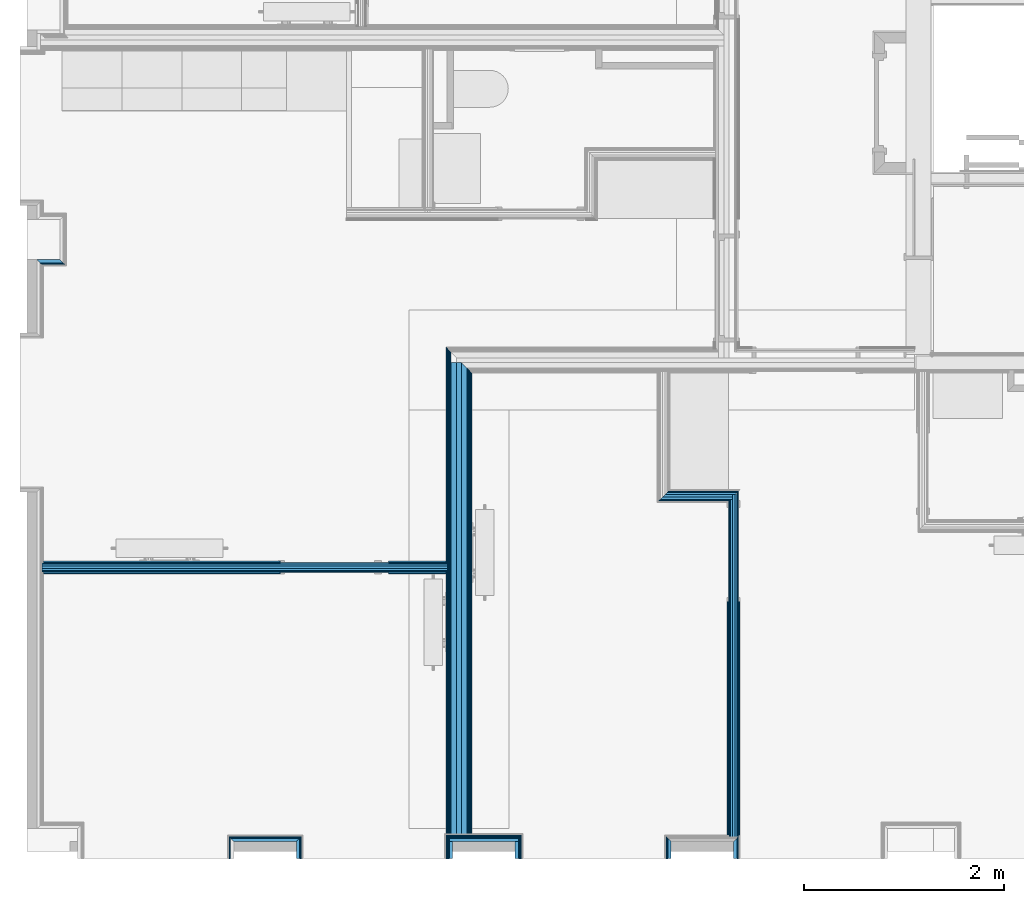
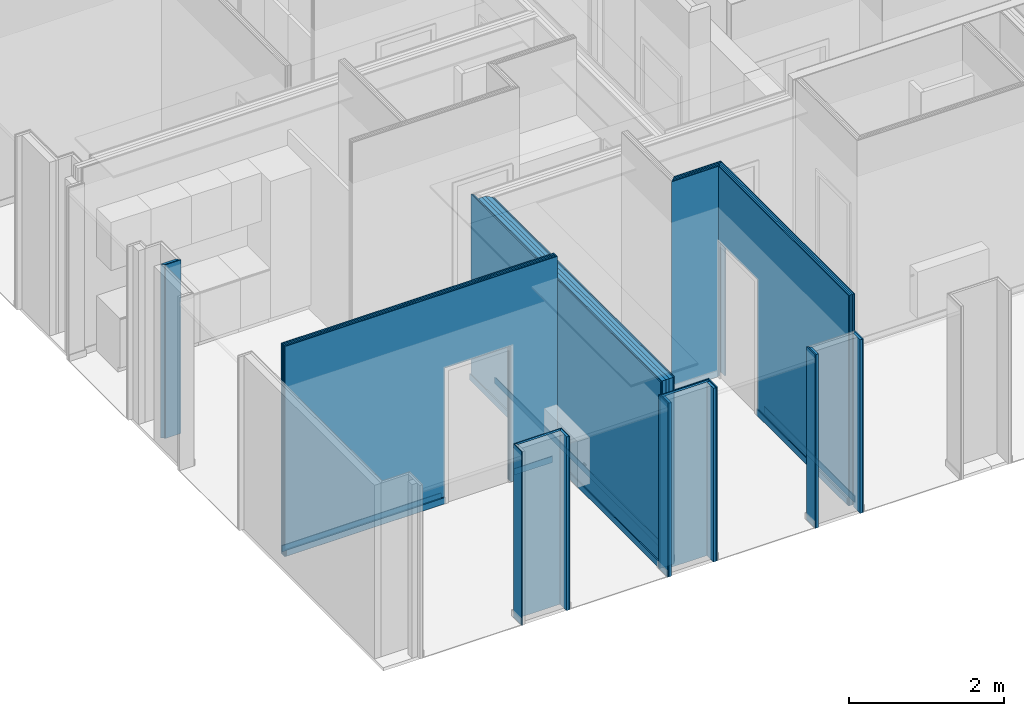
# One storey, part 12 of 65: 51 building element parts, 3 openings, 13 elements without a shape of their own.
"""IFC2X3 building model written with IfcOpenShell, lengths in metres."""

from ifc_helpers import new_model, entity, si_unit, converted_unit, derived_unit, money_unit, direction, frame, frame_2d, origin_with_axes, place, context, subcontext, project, spatial, polyline, rectangle, outline, extrude, material, type_object, element, aggregate, save


model = new_model("IFC2X3")

# Units and contexts
model_context = context("Model", 3, precision=1e-05, world=origin_with_axes(), true_north=direction((0.0, 1.0)))
body_context = subcontext(model_context, "Body", "Model", "MODEL_VIEW", scale=1.0)
ifc_project = project(units=[si_unit("LENGTHUNIT", "METRE"), si_unit("AREAUNIT", "SQUARE_METRE"), si_unit("VOLUMEUNIT", "CUBIC_METRE"), si_unit("ABSORBEDDOSEUNIT", "GRAY"), si_unit("AMOUNTOFSUBSTANCEUNIT", "MOLE"), si_unit("DOSEEQUIVALENTUNIT", "SIEVERT"), si_unit("ELECTRICCAPACITANCEUNIT", "FARAD"), si_unit("ELECTRICCHARGEUNIT", "COULOMB"), si_unit("ELECTRICCONDUCTANCEUNIT", "SIEMENS"), si_unit("ELECTRICCURRENTUNIT", "AMPERE"), si_unit("ELECTRICRESISTANCEUNIT", "OHM"), si_unit("ELECTRICVOLTAGEUNIT", "VOLT"), si_unit("ENERGYUNIT", "JOULE"), si_unit("FORCEUNIT", "NEWTON"), si_unit("FREQUENCYUNIT", "HERTZ"), si_unit("ILLUMINANCEUNIT", "LUX"), si_unit("INDUCTANCEUNIT", "HENRY"), si_unit("LUMINOUSFLUXUNIT", "LUMEN"), si_unit("LUMINOUSINTENSITYUNIT", "CANDELA"), si_unit("MAGNETICFLUXDENSITYUNIT", "TESLA"), si_unit("MAGNETICFLUXUNIT", "WEBER"), si_unit("MASSUNIT", "GRAM"), converted_unit("PLANEANGLEUNIT", "degree", entity("IfcReal", 0.0174532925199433), si_unit("PLANEANGLEUNIT", "RADIAN"), dimensions=[0, 0, 0, 0, 0, 0, 0]), si_unit("POWERUNIT", "WATT"), si_unit("PRESSUREUNIT", "PASCAL"), si_unit("RADIOACTIVITYUNIT", "BECQUEREL"), si_unit("SOLIDANGLEUNIT", "STERADIAN"), si_unit("THERMODYNAMICTEMPERATUREUNIT", "KELVIN"), si_unit("TIMEUNIT", "SECOND"), derived_unit("ACCELERATIONUNIT", [(si_unit("LENGTHUNIT", "METRE"), 1), (si_unit("TIMEUNIT", "SECOND"), -2)]), derived_unit("ANGULARVELOCITYUNIT", [(converted_unit("PLANEANGLEUNIT", "degree", entity("IfcReal", 0.0174532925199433), si_unit("PLANEANGLEUNIT", "RADIAN"), dimensions=[0, 0, 0, 0, 0, 0, 0]), 1), (si_unit("TIMEUNIT", "SECOND"), -1)]), derived_unit("CURVATUREUNIT", [(converted_unit("PLANEANGLEUNIT", "degree", entity("IfcReal", 0.0174532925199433), si_unit("PLANEANGLEUNIT", "RADIAN"), dimensions=[0, 0, 0, 0, 0, 0, 0]), 1), (si_unit("LENGTHUNIT", "METRE"), -1)]), derived_unit("DYNAMICVISCOSITYUNIT", [(si_unit("PRESSUREUNIT", "PASCAL"), 1), (si_unit("TIMEUNIT", "SECOND"), 1)]), derived_unit("HEATFLUXDENSITYUNIT", [(si_unit("POWERUNIT", "WATT"), 1), (si_unit("LENGTHUNIT", "METRE"), -2)]), derived_unit("HEATINGVALUEUNIT", [(si_unit("ENERGYUNIT", "JOULE"), 1), (si_unit("MASSUNIT", "GRAM"), -1)]), derived_unit("INTEGERCOUNTRATEUNIT", [(si_unit("TIMEUNIT", "SECOND"), -1)]), derived_unit("IONCONCENTRATIONUNIT", [(si_unit("MASSUNIT", "GRAM"), 1), (si_unit("VOLUMEUNIT", "CUBIC_METRE"), -1)]), derived_unit("ISOTHERMALMOISTURECAPACITYUNIT", [(si_unit("VOLUMEUNIT", "CUBIC_METRE"), 1), (si_unit("MASSUNIT", "GRAM"), -1)]), derived_unit("KINEMATICVISCOSITYUNIT", [(si_unit("AREAUNIT", "SQUARE_METRE"), 1), (si_unit("TIMEUNIT", "SECOND"), -1)]), derived_unit("LINEARFORCEUNIT", [(si_unit("FORCEUNIT", "NEWTON"), 1), (si_unit("LENGTHUNIT", "METRE"), -1)]), derived_unit("LINEARMOMENTUNIT", [(si_unit("FORCEUNIT", "NEWTON"), 1), (si_unit("LENGTHUNIT", "METRE"), -1)]), derived_unit("LINEARSTIFFNESSUNIT", [(si_unit("FORCEUNIT", "NEWTON"), 1), (si_unit("LENGTHUNIT", "METRE"), -1)]), derived_unit("LINEARVELOCITYUNIT", [(si_unit("LENGTHUNIT", "METRE"), 1), (si_unit("TIMEUNIT", "SECOND"), -1)]), derived_unit("LUMINOUSINTENSITYDISTRIBUTIONUNIT", [(si_unit("LUMINOUSINTENSITYUNIT", "CANDELA"), 1), (si_unit("LUMINOUSFLUXUNIT", "LUMEN"), -1)]), derived_unit("MASSDENSITYUNIT", [(si_unit("MASSUNIT", "GRAM"), 1), (si_unit("VOLUMEUNIT", "CUBIC_METRE"), -1)]), derived_unit("MASSFLOWRATEUNIT", [(si_unit("MASSUNIT", "GRAM"), 1), (si_unit("TIMEUNIT", "SECOND"), -1)]), derived_unit("MASSPERLENGTHUNIT", [(si_unit("MASSUNIT", "GRAM"), 1), (si_unit("LENGTHUNIT", "METRE"), -1)]), derived_unit("MODULUSOFELASTICITYUNIT", [(si_unit("FORCEUNIT", "NEWTON"), 1), (si_unit("AREAUNIT", "SQUARE_METRE"), -1)]), derived_unit("MODULUSOFLINEARSUBGRADEREACTIONUNIT", [(si_unit("FORCEUNIT", "NEWTON"), 1), (si_unit("LENGTHUNIT", "METRE"), -2)]), derived_unit("MODULUSOFROTATIONALSUBGRADEREACTIONUNIT", [(si_unit("FORCEUNIT", "NEWTON"), 1), (si_unit("LENGTHUNIT", "METRE"), 1)]), derived_unit("MODULUSOFSUBGRADEREACTIONUNIT", [(si_unit("FORCEUNIT", "NEWTON"), 1), (si_unit("VOLUMEUNIT", "CUBIC_METRE"), -1)]), derived_unit("MOISTUREDIFFUSIVITYUNIT", [(si_unit("VOLUMEUNIT", "CUBIC_METRE"), 1), (si_unit("TIMEUNIT", "SECOND"), -1)]), derived_unit("MOLECULARWEIGHTUNIT", [(si_unit("MASSUNIT", "GRAM"), 1), (si_unit("AMOUNTOFSUBSTANCEUNIT", "MOLE"), -1)]), derived_unit("PLANARFORCEUNIT", [(si_unit("FORCEUNIT", "NEWTON"), 1), (si_unit("LENGTHUNIT", "METRE"), -2)]), derived_unit("ROTATIONALFREQUENCYUNIT", [(si_unit("TIMEUNIT", "SECOND"), -1)]), derived_unit("ROTATIONALMASSUNIT", [(si_unit("MASSUNIT", "GRAM"), 1), (si_unit("LENGTHUNIT", "METRE"), 2)]), derived_unit("ROTATIONALSTIFFNESSUNIT", [(si_unit("FORCEUNIT", "NEWTON"), 1), (si_unit("LENGTHUNIT", "METRE"), 1), (converted_unit("PLANEANGLEUNIT", "degree", entity("IfcReal", 0.0174532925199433), si_unit("PLANEANGLEUNIT", "RADIAN"), dimensions=[0, 0, 0, 0, 0, 0, 0]), -1)]), derived_unit("SECTIONAREAINTEGRALUNIT", [(si_unit("LENGTHUNIT", "METRE"), 5)]), derived_unit("SECTIONMODULUSUNIT", [(si_unit("LENGTHUNIT", "METRE"), 3)]), derived_unit("SHEARMODULUSUNIT", [(si_unit("FORCEUNIT", "NEWTON"), 1), (si_unit("AREAUNIT", "SQUARE_METRE"), -1)]), derived_unit("SOUNDPOWERUNIT", [(si_unit("ENERGYUNIT", "JOULE"), 1), (si_unit("TIMEUNIT", "SECOND"), -1)]), derived_unit("SPECIFICHEATCAPACITYUNIT", [(si_unit("FORCEUNIT", "NEWTON"), 1), (si_unit("MASSUNIT", "GRAM"), -1), (si_unit("THERMODYNAMICTEMPERATUREUNIT", "KELVIN"), -1)]), derived_unit("TEMPERATUREGRADIENTUNIT", [(si_unit("THERMODYNAMICTEMPERATUREUNIT", "KELVIN"), 1), (si_unit("LENGTHUNIT", "METRE"), -1)]), derived_unit("THERMALADMITTANCEUNIT", [(si_unit("POWERUNIT", "WATT"), 1), (si_unit("AREAUNIT", "SQUARE_METRE"), -1), (si_unit("THERMODYNAMICTEMPERATUREUNIT", "KELVIN"), -1)]), derived_unit("THERMALCONDUCTANCEUNIT", [(si_unit("POWERUNIT", "WATT"), 1), (si_unit("LENGTHUNIT", "METRE"), -1), (si_unit("THERMODYNAMICTEMPERATUREUNIT", "KELVIN"), -1)]), derived_unit("THERMALEXPANSIONCOEFFICIENTUNIT", [(si_unit("THERMODYNAMICTEMPERATUREUNIT", "KELVIN"), -1)]), derived_unit("THERMALRESISTANCEUNIT", [(si_unit("AREAUNIT", "SQUARE_METRE"), 1), (si_unit("POWERUNIT", "WATT"), -1)]), derived_unit("THERMALTRANSMITTANCEUNIT", [(si_unit("POWERUNIT", "WATT"), 1), (si_unit("AREAUNIT", "SQUARE_METRE"), -1), (si_unit("THERMODYNAMICTEMPERATUREUNIT", "KELVIN"), -1)]), derived_unit("TORQUEUNIT", [(si_unit("FORCEUNIT", "NEWTON"), 1), (si_unit("LENGTHUNIT", "METRE"), 1)]), derived_unit("VAPORPERMEABILITYUNIT", [(si_unit("MASSUNIT", "GRAM"), 1), (si_unit("TIMEUNIT", "SECOND"), -1)]), derived_unit("VOLUMETRICFLOWRATEUNIT", [(si_unit("VOLUMEUNIT", "CUBIC_METRE"), 1), (si_unit("TIMEUNIT", "SECOND"), -1)]), derived_unit("WARPINGCONSTANTUNIT", [(si_unit("LENGTHUNIT", "METRE"), 6)]), derived_unit("WARPINGMOMENTUNIT", [(si_unit("FORCEUNIT", "NEWTON"), 1), (si_unit("LENGTHUNIT", "METRE"), 2)]), money_unit("GBP")], contexts=[model_context])

# Site, building, storey
site_placement = place(None, origin_with_axes())
site = spatial("IfcSite", under=ifc_project, at=site_placement, Name="Site", CompositionType="ELEMENT")
building_placement = place(site_placement, origin_with_axes())
building = spatial("IfcBuilding", under=site, at=building_placement, Name="Building01", CompositionType="ELEMENT")
storey_placement = place(building_placement, frame((0.0, 0.0, 8.64), z_axis=(0.0, 0.0, 1.0), x_axis=(1.0, 0.0, 0.0)))
storey = spatial("IfcBuildingStorey", under=building, at=storey_placement, Name="2F", CompositionType="ELEMENT", Elevation=8.64)

# Wall, building element parts
wall_type_1 = type_object("IfcWallType", Name="SHE_A-Walls_Type06d_ExternalWallInsulation_48mm", PredefinedType="NOTDEFINED")
wall_1_placement = place(storey_placement, frame((0.5, 6.1, 0.0), z_axis=(0.0, 0.0, 1.0), x_axis=(-1.0, 0.0, 0.0)))
wall_1 = element("IfcWall", 1, at=wall_1_placement, inside=storey, type_object=wall_type_1, Name="6D", ObjectType="SHE_A-Walls_Type06d_ExternalWallInsulation_48mm")
ifc_material_1 = material(Name="A_BSUK_Insulation")
placement_1 = place(wall_1_placement, origin_with_axes())
building_element_part_1 = element("IfcBuildingElementPart", 2, at=placement_1, material=ifc_material_1, Name="1", context=body_context, shape_type="SweptSolid", body=[
    extrude(outline(polyline([(0.194, 0.036), (-0.036, 0.036), (0.0, 0.0), (0.23, 0.0), (0.194, 0.036)])), origin_with_axes(), (0.0, 0.0, 1.0), 2.74),
])
ifc_material_2 = material(Name="A_BSUK_WallInternal_Finishes_Plasterboard")
building_element_part_2 = element("IfcBuildingElementPart", 3, at=placement_1, material=ifc_material_2, Name="2", context=body_context, shape_type="SweptSolid", body=[
    extrude(outline(polyline([(0.182, 0.048), (-0.048, 0.048), (-0.035, 0.035), (0.195, 0.035), (0.182, 0.048)])), origin_with_axes(), (0.0, 0.0, 1.0), 2.74),
])
aggregate(wall_1, [building_element_part_1, building_element_part_2])

# Wall, building element part
wall_2_placement = place(storey_placement, frame((2.243, 0.1, 0.0), z_axis=(0.0, 0.0, 1.0), x_axis=(0.0, 1.0, 0.0)))
wall_2 = element("IfcWall", 4, at=wall_2_placement, inside=storey, type_object=wall_type_1, Name="6D", ObjectType="SHE_A-Walls_Type06d_ExternalWallInsulation_48mm")
building_element_part_3_placement = place(wall_2_placement, origin_with_axes())
building_element_part_3 = element("IfcBuildingElementPart", 5, at=building_element_part_3_placement, material=ifc_material_2, Name="2", context=body_context, shape_type="SweptSolid", body=[
    extrude(outline(polyline([(0.218, 0.048), (0.0, 0.048), (0.0, 0.035), (0.205, 0.035), (0.218, 0.048)])), origin_with_axes(), (0.0, 0.0, 1.0), 2.74),
])
aggregate(wall_2, [building_element_part_3])

# Wall, building element parts
wall_3_placement = place(storey_placement, frame((2.243, 0.27, 0.0), z_axis=(0.0, 0.0, 1.0), x_axis=(1.0, 0.0, 0.0)))
wall_3 = element("IfcWall", 6, at=wall_3_placement, inside=storey, type_object=wall_type_1, Name="6D", ObjectType="SHE_A-Walls_Type06d_ExternalWallInsulation_48mm")
placement_2 = place(wall_3_placement, origin_with_axes())
building_element_part_4 = element("IfcBuildingElementPart", 7, at=placement_2, material=ifc_material_1, Name="1", context=body_context, shape_type="SweptSolid", body=[
    extrude(outline(polyline([(0.66, 0.036), (-0.036, 0.036), (0.0, 0.0), (0.624, 0.0), (0.66, 0.036)])), origin_with_axes(), (0.0, 0.0, 1.0), 2.74),
])
building_element_part_5 = element("IfcBuildingElementPart", 8, at=placement_2, material=ifc_material_2, Name="2", context=body_context, shape_type="SweptSolid", body=[
    extrude(outline(polyline([(0.672, 0.048), (-0.048, 0.048), (-0.035, 0.035), (0.659, 0.035), (0.672, 0.048)])), origin_with_axes(), (0.0, 0.0, 1.0), 2.74),
])
aggregate(wall_3, [building_element_part_4, building_element_part_5])

wall_4_placement = place(storey_placement, frame((2.867, 0.27, 0.0), z_axis=(0.0, 0.0, 1.0), x_axis=(0.0, -1.0, 0.0)))
wall_4 = element("IfcWall", 9, at=wall_4_placement, inside=storey, type_object=wall_type_1, Name="6D", ObjectType="SHE_A-Walls_Type06d_ExternalWallInsulation_48mm")
placement_3 = place(wall_4_placement, origin_with_axes())
building_element_part_6 = element("IfcBuildingElementPart", 10, at=placement_3, material=ifc_material_1, Name="1", context=body_context, shape_type="SweptSolid", body=[
    extrude(outline(polyline([(-0.036, 0.036), (0.0, 0.0), (0.17, 0.0), (0.17, 0.036), (-0.036, 0.036)])), origin_with_axes(), (0.0, 0.0, 1.0), 2.74),
])
building_element_part_7 = element("IfcBuildingElementPart", 11, at=placement_3, material=ifc_material_2, Name="2", context=body_context, shape_type="SweptSolid", body=[
    extrude(outline(polyline([(-0.048, 0.048), (-0.035, 0.035), (0.17, 0.035), (0.17, 0.048), (-0.048, 0.048)])), origin_with_axes(), (0.0, 0.0, 1.0), 2.74),
])
aggregate(wall_4, [building_element_part_6, building_element_part_7])

wall_5_placement = place(storey_placement, frame((6.623, 0.1, 0.0), z_axis=(0.0, 0.0, 1.0), x_axis=(0.0, 1.0, 0.0)))
wall_5 = element("IfcWall", 12, at=wall_5_placement, inside=storey, type_object=wall_type_1, Name="6D", ObjectType="SHE_A-Walls_Type06d_ExternalWallInsulation_48mm")
placement_4 = place(wall_5_placement, origin_with_axes())
building_element_part_8 = element("IfcBuildingElementPart", 13, at=placement_4, material=ifc_material_1, Name="1", context=body_context, shape_type="SweptSolid", body=[
    extrude(outline(polyline([(0.206, 0.036), (0.0, 0.036), (0.0, 0.0), (0.17, 0.0), (0.206, 0.036)])), origin_with_axes(), (0.0, 0.0, 1.0), 2.74),
])
building_element_part_9 = element("IfcBuildingElementPart", 14, at=placement_4, material=ifc_material_2, Name="2", context=body_context, shape_type="SweptSolid", body=[
    extrude(outline(polyline([(0.218, 0.048), (0.0, 0.048), (0.0, 0.035), (0.205, 0.035), (0.218, 0.048)])), origin_with_axes(), (0.0, 0.0, 1.0), 2.74),
])
aggregate(wall_5, [building_element_part_8, building_element_part_9])

wall_6_placement = place(storey_placement, frame((7.247, 0.27, 0.0), z_axis=(0.0, 0.0, 1.0), x_axis=(0.0, -1.0, 0.0)))
wall_6 = element("IfcWall", 15, at=wall_6_placement, inside=storey, type_object=wall_type_1, Name="6D", ObjectType="SHE_A-Walls_Type06d_ExternalWallInsulation_48mm")
placement_5 = place(wall_6_placement, origin_with_axes())
building_element_part_10 = element("IfcBuildingElementPart", 16, at=placement_5, material=ifc_material_1, Name="1", context=body_context, shape_type="SweptSolid", body=[
    extrude(outline(polyline([(-0.036, 0.036), (0.0, 0.0), (0.17, 0.0), (0.17, 0.036), (-0.036, 0.036)])), origin_with_axes(), (0.0, 0.0, 1.0), 2.74),
])
building_element_part_11 = element("IfcBuildingElementPart", 17, at=placement_5, material=ifc_material_2, Name="2", context=body_context, shape_type="SweptSolid", body=[
    extrude(outline(polyline([(-0.048, 0.048), (-0.035, 0.035), (0.17, 0.035), (0.17, 0.048), (-0.048, 0.048)])), origin_with_axes(), (0.0, 0.0, 1.0), 2.74),
])
aggregate(wall_6, [building_element_part_10, building_element_part_11])

wall_type_2 = type_object("IfcWallType", Name="SHE_A-Walls_Type01c_Partywall_225mm_twin_tall", PredefinedType="NOTDEFINED")
wall_7_placement = place(storey_placement, frame((4.522, 0.318, 0.0), z_axis=(0.0, 0.0, 1.0), x_axis=(0.0, 1.0, 0.0)))
wall_7 = element("IfcWall", 18, at=wall_7_placement, inside=storey, type_object=wall_type_2, Name="1C", ObjectType="SHE_A-Walls_Type01c_Partywall_225mm_twin_tall")
ifc_material_3 = material(Name="A_BSUK_Walls_Timber")
placement_6 = place(wall_7_placement, origin_with_axes())
building_element_part_12 = element("IfcBuildingElementPart", 19, at=placement_6, material=ifc_material_3, Name="1", context=body_context, shape_type="SweptSolid", body=[
    extrude(outline(polyline([(4.662, -0.088), (0.015, -0.088), (0.03, -0.103), (4.647, -0.103), (4.662, -0.088)])), frame((0.0, 0.0, 0.015), z_axis=(0.0, 0.0, 1.0), x_axis=(1.0, 0.0, 0.0)), (0.0, 0.0, 1.0), 0.1),
])
building_element_part_13 = element("IfcBuildingElementPart", 20, at=placement_6, material=ifc_material_2, Name="2", context=body_context, shape_type="SweptSolid", body=[
    extrude(outline(polyline([(4.677, -0.073), (0.0, -0.073), (0.015, -0.088), (4.662, -0.088), (4.677, -0.073)])), origin_with_axes(), (0.0, 0.0, 1.0), 2.95),
])
building_element_part_14 = element("IfcBuildingElementPart", 21, at=placement_6, material=ifc_material_2, Name="3", context=body_context, shape_type="SweptSolid", body=[
    extrude(outline(polyline([(4.692, -0.058), (0.0, -0.058), (0.0, -0.073), (4.677, -0.073), (4.692, -0.058)])), origin_with_axes(), (0.0, 0.0, 1.0), 2.95),
])
ifc_material_4 = material(Name="Air Cavity")
building_element_part_15 = element("IfcBuildingElementPart", 22, at=placement_6, material=ifc_material_4, Name="4", context=body_context, shape_type="SweptSolid", body=[
    extrude(outline(polyline([(4.75, 0.0), (0.0, 0.0), (0.0, -0.058), (4.692, -0.058), (4.75, 0.0)])), origin_with_axes(), (0.0, 0.0, 1.0), 2.95),
])
building_element_part_16 = element("IfcBuildingElementPart", 23, at=placement_6, material=ifc_material_1, Name="5", context=body_context, shape_type="SweptSolid", body=[
    extrude(rectangle(XDim=4.749, YDim=0.05, at=frame_2d((2.3745, 0.025), x_axis=(-1.0, 0.0))), origin_with_axes(), (0.0, 0.0, 1.0), 2.95),
])
building_element_part_17 = element("IfcBuildingElementPart", 24, at=placement_6, material=ifc_material_4, Name="6", context=body_context, shape_type="SweptSolid", body=[
    extrude(rectangle(XDim=4.749, YDim=0.057, at=frame_2d((2.3745, 0.0785), x_axis=(-1.0, 0.0))), origin_with_axes(), (0.0, 0.0, 1.0), 2.95),
])
building_element_part_18 = element("IfcBuildingElementPart", 25, at=placement_6, material=ifc_material_2, Name="7", context=body_context, shape_type="SweptSolid", body=[
    extrude(outline(polyline([(-0.012, 0.122), (-0.012, 0.107), (4.857, 0.107), (4.872, 0.122), (-0.012, 0.122)])), origin_with_axes(), (0.0, 0.0, 1.0), 2.95),
])
building_element_part_19 = element("IfcBuildingElementPart", 26, at=placement_6, material=ifc_material_2, Name="8", context=body_context, shape_type="SweptSolid", body=[
    extrude(outline(polyline([(-0.012, 0.137), (-0.012, 0.122), (4.872, 0.122), (4.887, 0.137), (-0.012, 0.137)])), origin_with_axes(), (0.0, 0.0, 1.0), 2.95),
])
building_element_part_20 = element("IfcBuildingElementPart", 27, at=placement_6, material=ifc_material_3, Name="9", context=body_context, shape_type="SweptSolid", body=[
    extrude(rectangle(XDim=2.700286, YDim=0.015, at=frame_2d((1.302143, 0.1445), x_axis=(-1.0, 0.0))), frame((0.0, 0.0, 0.015), z_axis=(0.0, 0.0, 1.0), x_axis=(1.0, 0.0, 0.0)), (0.0, 0.0, 1.0), 0.1),
])
building_element_part_21 = element("IfcBuildingElementPart", 28, at=placement_6, material=ifc_material_3, Name="10", context=body_context, shape_type="SweptSolid", body=[
    extrude(outline(polyline([(4.902, 0.152), (2.747286, 0.152), (2.747286, 0.137), (4.887, 0.137), (4.902, 0.152)])), frame((0.0, 0.0, 0.015), z_axis=(0.0, 0.0, 1.0), x_axis=(1.0, 0.0, 0.0)), (0.0, 0.0, 1.0), 0.1),
])
aggregate(wall_7, [building_element_part_12, building_element_part_13, building_element_part_14, building_element_part_15, building_element_part_16, building_element_part_17, building_element_part_18, building_element_part_19, building_element_part_20, building_element_part_21])

wall_type_3 = type_object("IfcWallType", Name="SHE_A-Walls_Type05a_Partition_95mm_tall", PredefinedType="NOTDEFINED")
wall_8_placement = place(storey_placement, frame((7.235, 3.72, 0.0), z_axis=(0.0, 0.0, 1.0), x_axis=(-1.0, 0.0, 0.0)))
wall_8 = element("IfcWall", 29, at=wall_8_placement, inside=storey, type_object=wall_type_3, Name="5A", ObjectType="SHE_A-Walls_Type05a_Partition_95mm_tall")
placement_7 = place(wall_8_placement, origin_with_axes())
building_element_part_22 = element("IfcBuildingElementPart", 30, at=placement_7, material=ifc_material_2, Name="2", context=body_context, shape_type="SweptSolid", body=[
    extrude(outline(polyline([(0.652, -0.048), (-0.048, -0.048), (-0.06, -0.06), (0.64, -0.06), (0.652, -0.048)])), origin_with_axes(), (0.0, 0.0, 1.0), 3.32),
])
building_element_part_23 = element("IfcBuildingElementPart", 31, at=placement_7, material=ifc_material_4, Name="3", context=body_context, shape_type="SweptSolid", body=[
    extrude(outline(polyline([(0.675, -0.025), (-0.025, -0.025), (-0.048, -0.048), (0.652, -0.048), (0.675, -0.025)])), origin_with_axes(), (0.0, 0.0, 1.0), 3.32),
])
building_element_part_24 = element("IfcBuildingElementPart", 32, at=placement_7, material=ifc_material_1, Name="4", context=body_context, shape_type="SweptSolid", body=[
    extrude(outline(polyline([(0.7, 0.0), (0.0, 0.0), (0.0, -0.025), (0.675, -0.025), (0.7, 0.0)])), origin_with_axes(), (0.0, 0.0, 1.0), 3.32),
])
building_element_part_25 = element("IfcBuildingElementPart", 33, at=placement_7, material=ifc_material_4, Name="5", context=body_context, shape_type="SweptSolid", body=[
    extrude(outline(polyline([(0.723, 0.023), (0.0, 0.023), (0.0, 0.0), (0.7, 0.0), (0.723, 0.023)])), origin_with_axes(), (0.0, 0.0, 1.0), 3.32),
])
building_element_part_26 = element("IfcBuildingElementPart", 34, at=placement_7, material=ifc_material_2, Name="6", context=body_context, shape_type="SweptSolid", body=[
    extrude(outline(polyline([(0.735, 0.035), (0.035, 0.035), (0.023, 0.023), (0.723, 0.023), (0.735, 0.035)])), origin_with_axes(), (0.0, 0.0, 1.0), 3.32),
])
aggregate(wall_8, [building_element_part_22, building_element_part_23, building_element_part_24, building_element_part_25, building_element_part_26])

# Wall, openings, building element parts
wall_9_placement = place(storey_placement, frame((7.26, 3.745, 0.0), z_axis=(0.0, 0.0, 1.0), x_axis=(0.0, -1.0, 0.0)))
wall_9 = element("IfcWall", 35, at=wall_9_placement, inside=storey, type_object=wall_type_3, Name="5A", ObjectType="SHE_A-Walls_Type05a_Partition_95mm_tall")
opening_1_placement = place(wall_9_placement, frame((0.129, -0.075, -0.015), z_axis=(0.0, 0.0, 1.0), x_axis=(1.0, 0.0, 0.0)))
element("IfcOpeningElement", 36, at=opening_1_placement, cuts=wall_9, Name="Opening", ObjectType="Opening", context=body_context, shape_type="SweptSolid", body=[
    extrude(outline(polyline([(0.0, 2.142), (-0.9, 2.142), (-0.9, 0.015), (-0.464219, 0.015), (-0.464219, 0.0), (0.0, 0.0), (0.0, 2.142)])), frame((0.0, 0.0, 0.0), z_axis=(0.0, 1.0, 0.0), x_axis=(-1.0, 0.0, 0.0)), (0.0, 0.0, 1.0), 0.125),
    extrude(outline(polyline([(0.619781, 2.157), (-0.942, 2.157), (-0.942, 0.015), (-0.464219, 0.015), (-0.464219, 0.0), (0.619781, 0.0), (0.619781, 2.157)])), frame((0.0, 0.015, 0.0), z_axis=(0.0, 1.0, 0.0), x_axis=(-1.0, 0.0, 0.0)), (0.0, 0.0, 1.0), 0.012),
    extrude(outline(polyline([(0.619781, 2.157), (-0.942, 2.157), (-0.942, 0.015), (-0.464219, 0.015), (-0.464219, 0.0), (0.619781, 0.0), (0.619781, 2.157)])), frame((0.0, 0.027, 0.0), z_axis=(0.0, 1.0, 0.0), x_axis=(-1.0, 0.0, 0.0)), (0.0, 0.0, 1.0), 0.023),
    extrude(outline(polyline([(0.619781, 2.157), (-0.942, 2.157), (-0.942, 0.015), (-0.464219, 0.015), (-0.464219, 0.0), (0.619781, 0.0), (0.619781, 2.157)])), frame((0.0, 0.05, 0.0), z_axis=(0.0, 1.0, 0.0), x_axis=(-1.0, 0.0, 0.0)), (0.0, 0.0, 1.0), 0.025),
    extrude(outline(polyline([(0.619781, 2.157), (-0.942, 2.157), (-0.942, 0.015), (-0.464219, 0.015), (-0.464219, 0.0), (0.619781, 0.0), (0.619781, 2.157)])), frame((0.0, 0.075, 0.0), z_axis=(0.0, 1.0, 0.0), x_axis=(-1.0, 0.0, 0.0)), (0.0, 0.0, 1.0), 0.023),
    extrude(rectangle(XDim=0.9, YDim=2.142, at=frame_2d((-0.45, 1.071), x_axis=(-1.0, 0.0))), frame((0.0, 0.098, 0.0), z_axis=(0.0, 1.0, 0.0), x_axis=(-1.0, 0.0, 0.0)), (0.0, 0.0, 1.0), 0.012),
    extrude(outline(polyline([(0.042, 2.142), (0.042, 2.157), (-0.942, 2.157), (-0.942, 0.015), (-0.464219, 0.015), (-0.464219, 0.0), (0.619781, 0.0), (0.619781, 2.142), (0.042, 2.142)])), frame((0.0, 0.0, 0.0), z_axis=(0.0, 1.0, 0.0), x_axis=(-1.0, 0.0, 0.0)), (0.0, 0.0, 1.0), 0.098),
    extrude(outline(polyline([(0.042, 2.142), (0.042, 2.157), (-0.942, 2.157), (-0.942, 0.015), (-0.464219, 0.015), (-0.464219, 0.0), (0.619781, 0.0), (0.619781, 2.142), (0.042, 2.142)])), frame((0.0, 0.11, 0.0), z_axis=(0.0, 1.0, 0.0), x_axis=(-1.0, 0.0, 0.0)), (0.0, 0.0, 1.0), 0.015),
])
opening_2_placement = place(wall_9_placement, frame((0.087, 0.023, 0.0), z_axis=(0.0, 0.0, 1.0), x_axis=(1.0, 0.0, 0.0)))
element("IfcOpeningElement", 37, at=opening_2_placement, cuts=wall_9, Name="Opening", ObjectType="Recess", context=body_context, shape_type="SweptSolid", body=[
    extrude(rectangle(XDim=2.142, YDim=0.984, at=frame_2d((-0.492, 1.071), x_axis=(0.0, 1.0))), frame((0.0, 0.0, 0.0), z_axis=(0.0, 1.0, 0.0), x_axis=(-1.0, 0.0, 0.0)), (0.0, 0.0, 1.0), 0.012),
])
placement_8 = place(wall_9_placement, origin_with_axes())
building_element_part_27 = element("IfcBuildingElementPart", 38, at=placement_8, material=ifc_material_3, Name="1", context=body_context, shape_type="SweptSolid", body=[
    extrude(outline(polyline([(3.412, -0.06), (0.06, -0.06), (0.075, -0.075), (3.412, -0.075), (3.412, -0.06)])), frame((0.0, 0.0, 0.015), z_axis=(0.0, 0.0, 1.0), x_axis=(1.0, 0.0, 0.0)), (0.0, 0.0, 1.0), 0.1),
])
building_element_part_28 = element("IfcBuildingElementPart", 39, at=placement_8, material=ifc_material_2, Name="2", context=body_context, shape_type="SweptSolid", body=[
    extrude(outline(polyline([(3.427, -0.048), (0.048, -0.048), (0.06, -0.06), (3.427, -0.06), (3.427, -0.048)])), origin_with_axes(), (0.0, 0.0, 1.0), 3.32),
])
building_element_part_29 = element("IfcBuildingElementPart", 40, at=placement_8, material=ifc_material_4, Name="3", context=body_context, shape_type="SweptSolid", body=[
    extrude(outline(polyline([(3.427, -0.025), (0.025, -0.025), (0.048, -0.048), (3.427, -0.048), (3.427, -0.025)])), origin_with_axes(), (0.0, 0.0, 1.0), 3.32),
])
building_element_part_30 = element("IfcBuildingElementPart", 41, at=placement_8, material=ifc_material_1, Name="4", context=body_context, shape_type="SweptSolid", body=[
    extrude(rectangle(XDim=3.427, YDim=0.025, at=frame_2d((1.7135, -0.0125), x_axis=(-1.0, 0.0))), origin_with_axes(), (0.0, 0.0, 1.0), 3.32),
])
building_element_part_31 = element("IfcBuildingElementPart", 42, at=placement_8, material=ifc_material_4, Name="5", context=body_context, shape_type="SweptSolid", body=[
    extrude(rectangle(XDim=3.427, YDim=0.023, at=frame_2d((1.7135, 0.0115), x_axis=(-1.0, 0.0))), origin_with_axes(), (0.0, 0.0, 1.0), 3.32),
])
building_element_part_32 = element("IfcBuildingElementPart", 43, at=placement_8, material=ifc_material_2, Name="6", context=body_context, shape_type="SweptSolid", body=[
    extrude(outline(polyline([(3.427, 0.035), (-0.035, 0.035), (-0.023, 0.023), (3.427, 0.023), (3.427, 0.035)])), origin_with_axes(), (0.0, 0.0, 1.0), 3.32),
])
building_element_part_33 = element("IfcBuildingElementPart", 44, at=placement_8, material=ifc_material_3, Name="7", context=body_context, shape_type="SweptSolid", body=[
    extrude(outline(polyline([(3.412, 0.05), (-0.05, 0.05), (-0.035, 0.035), (3.412, 0.035), (3.412, 0.05)])), frame((0.0, 0.0, 0.015), z_axis=(0.0, 0.0, 1.0), x_axis=(1.0, 0.0, 0.0)), (0.0, 0.0, 1.0), 0.1),
])
aggregate(wall_9, [building_element_part_27, building_element_part_28, building_element_part_29, building_element_part_30, building_element_part_31, building_element_part_32, building_element_part_33])

# Wall, opening, building element parts
wall_10_placement = place(storey_placement, frame((0.318, 3.030286, 0.0), z_axis=(0.0, 0.0, 1.0), x_axis=(1.0, 0.0, 0.0)))
wall_10 = element("IfcWall", 45, at=wall_10_placement, inside=storey, type_object=wall_type_3, Name="5A", ObjectType="SHE_A-Walls_Type05a_Partition_95mm_tall")
opening_3_placement = place(wall_10_placement, frame((2.391, -0.075, -0.03), z_axis=(0.0, 0.0, 1.0), x_axis=(1.0, 0.0, 0.0)))
element("IfcOpeningElement", 46, at=opening_3_placement, cuts=wall_10, Name="Opening", ObjectType="Opening", context=body_context, shape_type="SweptSolid", body=[
    extrude(outline(polyline([(-0.984, 0.0), (-0.099, 0.0), (-0.099, 0.03), (0.0, 0.03), (0.0, 2.172), (-0.984, 2.172), (-0.984, 0.0)])), frame((0.0, 0.0, 0.0), z_axis=(0.0, 1.0, 0.0), x_axis=(-1.0, 0.0, 0.0)), (0.0, 0.0, 1.0), 0.125),
    extrude(rectangle(XDim=0.984, YDim=2.172, at=frame_2d((-0.492, 1.086), x_axis=(1.0, 0.0))), frame((0.0, 0.015, 0.0), z_axis=(0.0, 1.0, 0.0), x_axis=(-1.0, 0.0, 0.0)), (0.0, 0.0, 1.0), 0.012),
    extrude(outline(polyline([(-0.099, 0.03), (0.0, 0.03), (0.0, 2.172), (-0.984, 2.172), (-0.984, 2.142), (-1.083, 2.142), (-1.083, 0.0), (-0.099, 0.0), (-0.099, 0.03)])), frame((0.0, 0.0, 0.0), z_axis=(0.0, 1.0, 0.0), x_axis=(-1.0, 0.0, 0.0)), (0.0, 0.0, 1.0), 0.015),
    extrude(rectangle(XDim=0.984, YDim=2.172, at=frame_2d((-0.492, 1.086), x_axis=(1.0, 0.0))), frame((0.0, 0.027, 0.0), z_axis=(0.0, 1.0, 0.0), x_axis=(-1.0, 0.0, 0.0)), (0.0, 0.0, 1.0), 0.023),
    extrude(outline(polyline([(-0.984, 0.0), (-0.042, 0.0), (-0.042, 0.03), (0.0, 0.03), (0.0, 2.172), (-0.984, 2.172), (-0.984, 0.0)])), frame((0.0, 0.05, 0.0), z_axis=(0.0, 1.0, 0.0), x_axis=(-1.0, 0.0, 0.0)), (0.0, 0.0, 1.0), 0.025),
    extrude(outline(polyline([(-0.984, 0.0), (-0.042, 0.0), (-0.042, 0.03), (0.0, 0.03), (0.0, 2.172), (-0.984, 2.172), (-0.984, 0.0)])), frame((0.0, 0.075, 0.0), z_axis=(0.0, 1.0, 0.0), x_axis=(-1.0, 0.0, 0.0)), (0.0, 0.0, 1.0), 0.023),
    extrude(outline(polyline([(-0.984, 0.0), (-0.042, 0.0), (-0.042, 0.03), (0.0, 0.03), (0.0, 2.172), (-0.984, 2.172), (-0.984, 0.0)])), frame((0.0, 0.098, 0.0), z_axis=(0.0, 1.0, 0.0), x_axis=(-1.0, 0.0, 0.0)), (0.0, 0.0, 1.0), 0.012),
    extrude(outline(polyline([(-0.099, 0.03), (0.0, 0.03), (0.0, 2.172), (-0.984, 2.172), (-0.984, 2.142), (-1.083, 2.142), (-1.083, 0.0), (-0.099, 0.0), (-0.099, 0.03)])), frame((0.0, 0.11, 0.0), z_axis=(0.0, 1.0, 0.0), x_axis=(-1.0, 0.0, 0.0)), (0.0, 0.0, 1.0), 0.015),
])
placement_9 = place(wall_10_placement, origin_with_axes())
building_element_part_34 = element("IfcBuildingElementPart", 47, at=placement_9, material=ifc_material_3, Name="1", context=body_context, shape_type="SweptSolid", body=[
    extrude(rectangle(XDim=4.037, YDim=0.015, at=frame_2d((2.0335, -0.0675), x_axis=(-1.0, 0.0))), frame((0.0, 0.0, 0.015), z_axis=(0.0, 0.0, 1.0), x_axis=(1.0, 0.0, 0.0)), (0.0, 0.0, 1.0), 0.1),
])
building_element_part_35 = element("IfcBuildingElementPart", 48, at=placement_9, material=ifc_material_2, Name="2", context=body_context, shape_type="SweptSolid", body=[
    extrude(rectangle(XDim=4.067, YDim=0.012, at=frame_2d((2.0335, -0.054), x_axis=(-1.0, 0.0))), origin_with_axes(), (0.0, 0.0, 1.0), 3.32),
])
building_element_part_36 = element("IfcBuildingElementPart", 49, at=placement_9, material=ifc_material_4, Name="3", context=body_context, shape_type="SweptSolid", body=[
    extrude(rectangle(XDim=4.067, YDim=0.023, at=frame_2d((2.0335, -0.0365), x_axis=(-1.0, 0.0))), origin_with_axes(), (0.0, 0.0, 1.0), 3.32),
])
building_element_part_37 = element("IfcBuildingElementPart", 50, at=placement_9, material=ifc_material_1, Name="4", context=body_context, shape_type="SweptSolid", body=[
    extrude(rectangle(XDim=4.067, YDim=0.025, at=frame_2d((2.0335, -0.0125), x_axis=(-1.0, 0.0))), origin_with_axes(), (0.0, 0.0, 1.0), 3.32),
])
building_element_part_38 = element("IfcBuildingElementPart", 51, at=placement_9, material=ifc_material_4, Name="5", context=body_context, shape_type="SweptSolid", body=[
    extrude(rectangle(XDim=4.067, YDim=0.023, at=frame_2d((2.0335, 0.0115), x_axis=(-1.0, 0.0))), origin_with_axes(), (0.0, 0.0, 1.0), 3.32),
])
building_element_part_39 = element("IfcBuildingElementPart", 52, at=placement_9, material=ifc_material_2, Name="6", context=body_context, shape_type="SweptSolid", body=[
    extrude(rectangle(XDim=4.067, YDim=0.012, at=frame_2d((2.0335, 0.029), x_axis=(-1.0, 0.0))), origin_with_axes(), (0.0, 0.0, 1.0), 3.32),
])
building_element_part_40 = element("IfcBuildingElementPart", 53, at=placement_9, material=ifc_material_3, Name="7", context=body_context, shape_type="SweptSolid", body=[
    extrude(rectangle(XDim=4.037, YDim=0.015, at=frame_2d((2.0335, 0.0425), x_axis=(-1.0, 0.0))), frame((0.0, 0.0, 0.015), z_axis=(0.0, 0.0, 1.0), x_axis=(1.0, 0.0, 0.0)), (0.0, 0.0, 1.0), 0.1),
])
aggregate(wall_10, [building_element_part_34, building_element_part_35, building_element_part_36, building_element_part_37, building_element_part_38, building_element_part_39, building_element_part_40])

# Wall, building element parts
wall_type_4 = type_object("IfcWallType", Name="SHE_A-Walls_Type06f_ExternalWallInsulation_48+15mm", PredefinedType="NOTDEFINED")
wall_11_placement = place(storey_placement, frame((4.433, 0.27, 0.0), z_axis=(0.0, 0.0, 1.0), x_axis=(0.0, -1.0, 0.0)))
wall_11 = element("IfcWall", 54, at=wall_11_placement, inside=storey, type_object=wall_type_4, Name="6F", ObjectType="SHE_A-Walls_Type06f_ExternalWallInsulation_48+15mm")
placement_10 = place(wall_11_placement, origin_with_axes())
building_element_part_41 = element("IfcBuildingElementPart", 55, at=placement_10, material=ifc_material_2, Name="2", context=body_context, shape_type="SweptSolid", body=[
    extrude(outline(polyline([(0.17, -0.048), (-0.048, -0.048), (-0.063, -0.063), (0.17, -0.063), (0.17, -0.048)])), origin_with_axes(), (0.0, 0.0, 1.0), 2.74),
])
building_element_part_42 = element("IfcBuildingElementPart", 56, at=placement_10, material=ifc_material_2, Name="3", context=body_context, shape_type="SweptSolid", body=[
    extrude(rectangle(XDim=0.206, YDim=0.012, at=frame_2d((0.067, -0.042), x_axis=(-1.0, 0.0))), origin_with_axes(), (0.0, 0.0, 1.0), 2.74),
])
building_element_part_43 = element("IfcBuildingElementPart", 57, at=placement_10, material=ifc_material_1, Name="4", context=body_context, shape_type="SweptSolid", body=[
    extrude(rectangle(XDim=0.17, YDim=0.036, at=frame_2d((0.085, -0.018), x_axis=(-1.0, 0.0))), origin_with_axes(), (0.0, 0.0, 1.0), 2.74),
])
aggregate(wall_11, [building_element_part_41, building_element_part_42, building_element_part_43])

wall_12_placement = place(storey_placement, frame((5.093124, 0.27, 0.0), z_axis=(0.0, 0.0, 1.0), x_axis=(-1.0, 0.0, 0.0)))
wall_12 = element("IfcWall", 58, at=wall_12_placement, inside=storey, type_object=wall_type_4, Name="6F", ObjectType="SHE_A-Walls_Type06f_ExternalWallInsulation_48+15mm")
placement_11 = place(wall_12_placement, origin_with_axes())
building_element_part_44 = element("IfcBuildingElementPart", 59, at=placement_11, material=ifc_material_2, Name="3", context=body_context, shape_type="SweptSolid", body=[
    extrude(outline(polyline([(0.498124, -0.048), (-0.012, -0.048), (-0.027, -0.063), (0.483124, -0.063), (0.498124, -0.048)])), origin_with_axes(), (0.0, 0.0, 1.0), 2.74),
])
building_element_part_45 = element("IfcBuildingElementPart", 60, at=placement_11, material=ifc_material_2, Name="4", context=body_context, shape_type="SweptSolid", body=[
    extrude(outline(polyline([(0.708124, -0.048), (0.498124, -0.048), (0.483124, -0.063), (0.723124, -0.063), (0.708124, -0.048)])), origin_with_axes(), (0.0, 0.0, 1.0), 2.74),
])
building_element_part_46 = element("IfcBuildingElementPart", 61, at=placement_11, material=ifc_material_2, Name="5", context=body_context, shape_type="SweptSolid", body=[
    extrude(outline(polyline([(0.708124, -0.036), (0.510124, -0.036), (0.498124, -0.048), (0.708124, -0.048), (0.708124, -0.036)])), origin_with_axes(), (0.0, 0.0, 1.0), 2.74),
])
building_element_part_47 = element("IfcBuildingElementPart", 62, at=placement_11, material=ifc_material_2, Name="6", context=body_context, shape_type="SweptSolid", body=[
    extrude(rectangle(XDim=0.621124, YDim=0.012, at=frame_2d((0.310562, -0.042), x_axis=(-1.0, 0.0))), origin_with_axes(), (0.0, 0.0, 1.0), 2.74),
])
building_element_part_48 = element("IfcBuildingElementPart", 63, at=placement_11, material=ifc_material_1, Name="7", context=body_context, shape_type="SweptSolid", body=[
    extrude(rectangle(XDim=0.708124, YDim=0.036, at=frame_2d((0.354062, -0.018), x_axis=(-1.0, 0.0))), origin_with_axes(), (0.0, 0.0, 1.0), 2.74),
])
aggregate(wall_12, [building_element_part_44, building_element_part_45, building_element_part_46, building_element_part_47, building_element_part_48])

wall_13_placement = place(storey_placement, frame((5.057124, 0.27, 0.0), z_axis=(0.0, 0.0, 1.0), x_axis=(0.0, 1.0, 0.0)))
wall_13 = element("IfcWall", 64, at=wall_13_placement, inside=storey, type_object=wall_type_4, Name="6F", ObjectType="SHE_A-Walls_Type06f_ExternalWallInsulation_48+15mm")
placement_12 = place(wall_13_placement, origin_with_axes())
building_element_part_49 = element("IfcBuildingElementPart", 65, at=placement_12, material=ifc_material_2, Name="2", context=body_context, shape_type="SweptSolid", body=[
    extrude(outline(polyline([(-0.17, -0.063), (0.063, -0.063), (0.048, -0.048), (-0.17, -0.048), (-0.17, -0.063)])), origin_with_axes(), (0.0, 0.0, 1.0), 2.74),
])
building_element_part_50 = element("IfcBuildingElementPart", 66, at=placement_12, material=ifc_material_2, Name="3", context=body_context, shape_type="SweptSolid", body=[
    extrude(rectangle(XDim=0.218, YDim=0.012, at=frame_2d((-0.061, -0.042), x_axis=(1.0, 0.0))), origin_with_axes(), (0.0, 0.0, 1.0), 2.74),
])
building_element_part_51 = element("IfcBuildingElementPart", 67, at=placement_12, material=ifc_material_1, Name="4", context=body_context, shape_type="SweptSolid", body=[
    extrude(rectangle(XDim=0.17, YDim=0.036, at=frame_2d((-0.085, -0.018), x_axis=(1.0, 0.0))), origin_with_axes(), (0.0, 0.0, 1.0), 2.74),
])
aggregate(wall_13, [building_element_part_49, building_element_part_50, building_element_part_51])

save(model, "model.ifc")
